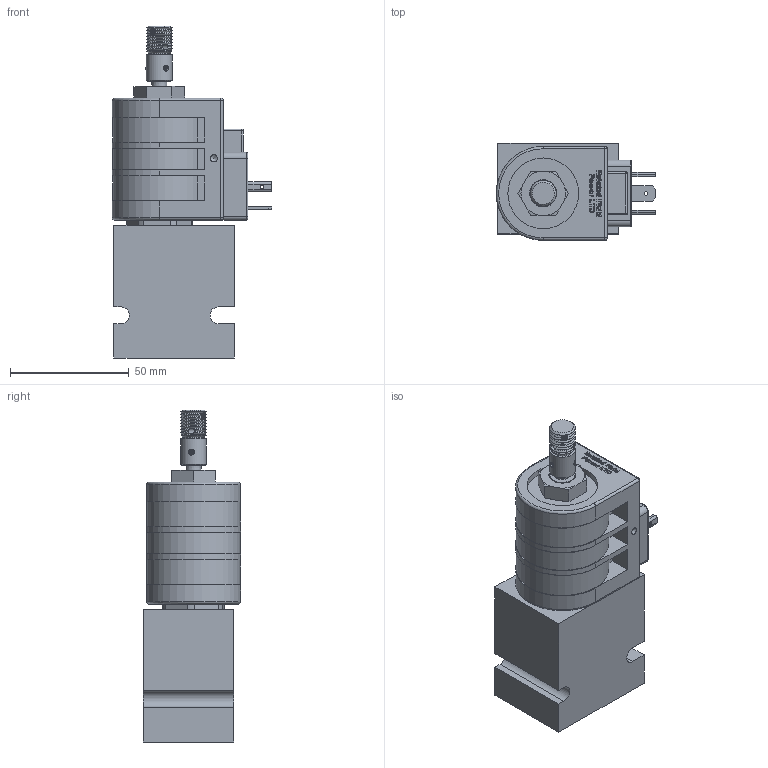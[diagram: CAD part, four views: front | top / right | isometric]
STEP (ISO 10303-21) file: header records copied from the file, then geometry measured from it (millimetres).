
FILE_DESCRIPTION( ( 'Unknown' ), '1' );
FILE_NAME( 'G:/Graphic Design/Graphic Design 2/Data Sheets/SOLENOID OPERATED VALVES/4_STEP/2W2P Normally Closed/DE-S2A0M-B2.stp', 'Unknown', ( 'Unknown' ), ( 'Unknown' ), 'PSStep 15.0.49', 'Unknown', ' ' );
FILE_SCHEMA( ( 'AUTOMOTIVE_DESIGN { 1 0 10303 214 1 1 1 1 }' ) );
Length unit declared in the file: millimetre
Products named in the file (19): D-DHC12_24; DHC-Body; DHC-Disc; DHC-Disc-oa0; PT-EL-HC-TerminalConnectors; D-DE-S2A-0M; DES2A0M-3D Full1; DES2A0M-3D Full2; DES2A0M-3D Full4; DES2A0M-3D Full5; DES2A0M-3D Full6; DES2A0M-3D Full3; Delta_1_2_nut1; Assem1; B-DDEB2
Assembly tree (18 placements, depth 3):
  Assem1
    B-DDEB2
    D-DHC12_24
      DHC-Body
      DHC-Disc
      DHC-Disc-oa0
      PT-EL-HC-TerminalConnectors
      PT-EL-HC-TerminalConnectors
      PT-EL-HC-TerminalConnectors
      PT-EL-HC-TerminalConnectors
    D-DE-S2A-0M
      DES2A0M-3D Full1
      DES2A0M-3D Full2
      DES2A0M-3D Full4
      DES2A0M-3D Full5
      DES2A0M-3D Full6
      DES2A0M-3D Full3
      DES2A0M-3D Full3
      Delta_1_2_nut1
Bounding box: 67.2 x 40.9 x 139.94 mm (x, y, z)
Volume: 169485.3 mm3; surface area: 48015.8 mm2
Topology: 14 solids, 192 shells, 731 faces, 2195 edges, 1591 vertices
Faces by surface type: plane 326, cone 171, extrusion 118, cylinder 100, torus 10, sphere 6
Full cylindrical faces by diameter (mm): 0.2 x2, 0.711 x1, 1 x1, 1.5 x3, 2.426 x2, 2.5 x1, 3 x2, 3.454 x6, 7.95 x1, 9.144 x1, 9.525 x1, 10.161 x1, 10.922 x1, 10.973 x1, 12 x1, 12.675 x1, 12.7 x3, 12.992 x1, 13 x1, 13.043 x1, 14 x1, 15 x4, 15.735 x1, 15.773 x2, 15.9 x1, 17.043 x1, 17.323 x1, 19.624 x1, 20.262 x2, 24.2 x2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
Entity records: 31839 total; most frequent: CARTESIAN_POINT 8229, DIRECTION 3263, ORIENTED_EDGE 3235, EDGE_CURVE 1905, VERTEX_POINT 1483, AXIS2_PLACEMENT_3D 1162, EDGE_LOOP 986, VECTOR 939
